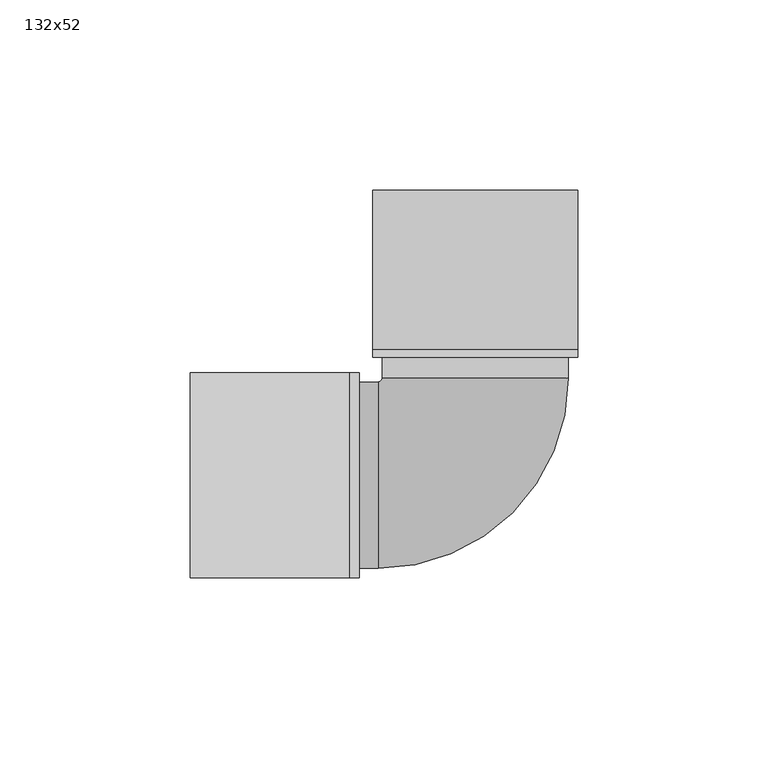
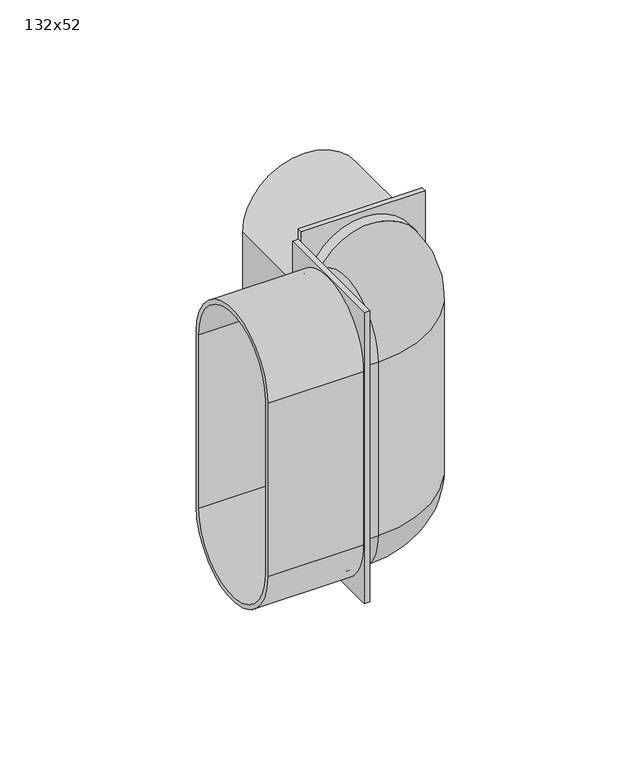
"""IFC4 building model written with IfcOpenShell, lengths in millimetres: duct fitting geometry, NLRS_57_DUF_UN_bend vertical v2_M&G : 132x52."""

from ifc_helpers import new_model, si_unit, point, frame, origin, place, context, project, spatial, polyline, circle_curve, ellipse_curve, trimmed, outline, extrude, source, transform, mapped, element, save
from ifc_brep_helpers import plane_surface, cylinder_surface, revolved_surface, advanced_brep


def duct_fitting_132x52_0ce7a236(model_context):
    return source(origin(), model_context, "Body", "SolidModel", [
        extrude(outline(polyline([(-33.0, -27.0), (-33.0, 27.0), (-30.5, 27.0), (-30.5, -27.0), (-33.0, -27.0)])), frame((0.0, 0.0, -67.0), z_axis=(0.0, 0.0, 1.0), x_axis=(1.0, 0.0, 0.0)), (0.0, 0.0, 1.0), 134.0),
        extrude(outline(polyline([(-27.0, 33.0), (27.0, 33.0), (27.0, 31.0), (-27.0, 31.0), (-27.0, 33.0)])), frame((0.0, 0.0, -67.0), z_axis=(0.0, 0.0, 1.0), x_axis=(1.0, 0.0, 0.0)), (0.0, 0.0, 1.0), 134.0),
        advanced_brep(
        [(-33.0, 27.0, -40.0), (-33.0, 27.0, 40.0), (-33.0, -27.0, 40.0), (-33.0, -27.0, -40.0), (-33.0, -24.5, -40.0), (-33.0, -24.5, 40.0), (-33.0, 24.5, 40.0), (-33.0, 24.5, -40.0), (-75.0, 27.0, -40.0), (-75.0, -27.0, -40.0), (-75.0, -27.0, 40.0), (-75.0, 27.0, 40.0), (-75.0, 25.0, 40.0), (-75.0, -25.0, 40.0), (-75.0, -25.0, -40.0), (-75.0, 25.0, -40.0), (-27.0, 33.0, 40.0), (-27.0, 33.0, -40.0), (27.0, 33.0, -40.0), (27.0, 33.0, 40.0), (-24.5, 33.0, 40.0), (24.5, 33.0, 40.0), (24.5, 33.0, -40.0), (-24.5, 33.0, -40.0), (-27.0, 75.0, 40.0), (27.0, 75.0, 40.0), (27.0, 75.0, -40.0), (-27.0, 75.0, -40.0), (25.0, 75.0, -40.0), (25.0, 75.0, 40.0), (-25.0, 75.0, 40.0), (-25.0, 75.0, -40.0), (-35.0, 25.0, -40.0), (-35.0, -25.0, -40.0), (-35.0, -25.0, 40.0), (-35.0, 25.0, 40.0), (25.0, 35.0, -40.0), (-25.0, 35.0, -40.0), (-25.0, 35.0, 40.0), (25.0, 35.0, 40.0), (-25.5, -24.5, -40.0), (-25.5, -24.5, 40.0), (-25.5, 24.5, 40.0), (-25.5, 24.5, -40.0), (24.5, 25.5, 40.0), (-24.5, 25.5, 40.0), (-24.5, 25.5, -40.0), (24.5, 25.5, -40.0)],
        [
            (0, 1),
            (1, 2, circle_curve(frame((-33.0, 0.0, 40.0), z_axis=(1.0, 0.0, 0.0), x_axis=(0.0, -1.0, 0.0)), 27.0)),
            (2, 3),
            (3, 0, circle_curve(frame((-33.0, 0.0, -40.0), z_axis=(1.0, 0.0, 0.0), x_axis=(0.0, -1.0, 0.0)), 27.0)),
            (4, 5),
            (5, 6, circle_curve(frame((-33.0, 0.0, 40.0), z_axis=(-1.0, 0.0, 0.0), x_axis=(0.0, 1.0, 0.0)), 24.5)),
            (6, 7),
            (7, 4, circle_curve(frame((-33.0, 0.0, -40.0), z_axis=(-1.0, 0.0, 0.0), x_axis=(0.0, 1.0, 0.0)), 24.5)),
            (8, 9, circle_curve(frame((-75.0, 0.0, -40.0), z_axis=(-1.0, 0.0, 0.0), x_axis=(0.0, -1.0, 0.0)), 27.0)),
            (9, 10),
            (10, 11, circle_curve(frame((-75.0, 0.0, 40.0), z_axis=(-1.0, 0.0, 0.0), x_axis=(0.0, -1.0, 0.0)), 27.0)),
            (11, 8),
            (12, 13, circle_curve(frame((-75.0, 0.0, 40.0), z_axis=(1.0, 0.0, 0.0), x_axis=(0.0, 1.0, 0.0)), 25.0)),
            (13, 14),
            (14, 15, circle_curve(frame((-75.0, 0.0, -40.0), z_axis=(1.0, 0.0, 0.0), x_axis=(0.0, 1.0, 0.0)), 25.0)),
            (15, 12),
            (16, 17),
            (17, 18, circle_curve(frame((0.0, 33.0, -40.0), z_axis=(0.0, -1.0, 0.0), x_axis=(-1.0, 0.0, 0.0)), 27.0)),
            (18, 19),
            (19, 16, circle_curve(frame((0.0, 33.0, 40.0), z_axis=(0.0, -1.0, 0.0), x_axis=(-1.0, 0.0, 0.0)), 27.0)),
            (20, 21, circle_curve(frame((0.0, 33.0, 40.0), z_axis=(0.0, 1.0, 0.0), x_axis=(-1.0, 0.0, 0.0)), 24.5)),
            (21, 22),
            (22, 23, circle_curve(frame((0.0, 33.0, -40.0), z_axis=(0.0, 1.0, 0.0), x_axis=(-1.0, 0.0, 0.0)), 24.5)),
            (23, 20),
            (24, 25, circle_curve(frame((0.0, 75.0, 40.0), z_axis=(0.0, 1.0, 0.0), x_axis=(-1.0, 0.0, 0.0)), 27.0)),
            (25, 26),
            (26, 27, circle_curve(frame((0.0, 75.0, -40.0), z_axis=(0.0, 1.0, 0.0), x_axis=(-1.0, 0.0, 0.0)), 27.0)),
            (27, 24),
            (28, 29),
            (29, 30, circle_curve(frame((0.0, 75.0, 40.0), z_axis=(0.0, -1.0, 0.0), x_axis=(-1.0, 0.0, 0.0)), 25.0)),
            (30, 31),
            (31, 28, circle_curve(frame((0.0, 75.0, -40.0), z_axis=(0.0, -1.0, 0.0), x_axis=(-1.0, 0.0, 0.0)), 25.0)),
            (32, 33, circle_curve(frame((-35.0, 0.0, -40.0), z_axis=(-1.0, 0.0, 0.0), x_axis=(0.0, 1.0, 0.0)), 25.0)),
            (33, 34),
            (34, 35, circle_curve(frame((-35.0, 0.0, 40.0), z_axis=(-1.0, 0.0, 0.0), x_axis=(0.0, 1.0, 0.0)), 25.0)),
            (35, 32),
            (36, 37, circle_curve(frame((0.0, 35.0, -40.0), z_axis=(0.0, 1.0, 0.0), x_axis=(-1.0, 0.0, 0.0)), 25.0)),
            (37, 38),
            (38, 39, circle_curve(frame((0.0, 35.0, 40.0), z_axis=(0.0, 1.0, 0.0), x_axis=(-1.0, 0.0, 0.0)), 25.0)),
            (39, 36),
            (34, 13),
            (12, 35),
            (15, 32),
            (14, 33),
            (3, 9),
            (8, 0),
            (11, 1),
            (10, 2),
            (39, 29),
            (28, 36),
            (38, 30),
            (37, 31),
            (4, 40),
            (40, 41),
            (41, 5),
            (41, 42, circle_curve(frame((-25.5, 0.0, 40.0), z_axis=(-1.0, 0.0, 0.0), x_axis=(0.0, 1.0, 0.0)), 24.5)),
            (42, 6),
            (42, 43),
            (43, 7),
            (43, 40, circle_curve(frame((-25.5, 0.0, -40.0), z_axis=(-1.0, 0.0, 0.0), x_axis=(0.0, 1.0, 0.0)), 24.5)),
            (41, 44, circle_curve(frame((-25.5, 25.5, 40.0), z_axis=(0.0, 0.0, 1.0), x_axis=(0.0, -1.0, 0.0)), 50.0)),
            (44, 45, circle_curve(frame((0.0, 25.5, 40.0), z_axis=(0.0, -1.0, 0.0), x_axis=(-1.0, 0.0, 0.0)), 24.5)),
            (45, 42, circle_curve(frame((-25.5, 25.5, 40.0), z_axis=(0.0, 0.0, -1.0), x_axis=(0.0, -1.0, 0.0)), 1.0)),
            (43, 46, circle_curve(frame((-25.5, 25.5, -40.0), z_axis=(0.0, 0.0, 1.0), x_axis=(0.0, -1.0, 0.0)), 1.0)),
            (46, 47, circle_curve(frame((0.0, 25.5, -40.0), z_axis=(1.0675904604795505e-12, -1.0, 0.0), x_axis=(-1.0, -1.0675904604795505e-12, 0.0)), 24.5)),
            (47, 40, circle_curve(frame((-25.5, 25.5, -40.0), z_axis=(0.0, 0.0, -1.0), x_axis=(0.0, -1.0, 0.0)), 50.0)),
            (44, 21),
            (20, 45),
            (46, 23),
            (22, 47),
            (16, 24),
            (27, 17),
            (26, 18),
            (25, 19),
            (47, 44),
            (45, 46),
        ],
        [
            plane_surface(frame((-33.0, 0.0, 0.0), z_axis=(1.0, 0.0, 0.0), x_axis=(0.0, 0.0, 1.0))),
            plane_surface(frame((-75.0, 0.0, 0.0), z_axis=(-1.0, 0.0, 0.0), x_axis=(0.0, 0.0, 1.0))),
            plane_surface(frame((0.0, 33.0, 0.0), z_axis=(0.0, -1.0, 0.0), x_axis=(0.0, 0.0, 1.0))),
            plane_surface(frame((0.0, 75.0, 0.0), z_axis=(0.0, 1.0, 0.0), x_axis=(0.0, 0.0, 1.0))),
            plane_surface(frame((-35.0, 0.0, 0.0), z_axis=(-1.0, 0.0, 0.0), x_axis=(0.0, 0.0, 1.0))),
            plane_surface(frame((0.0, 35.0, 0.0), z_axis=(0.0, 1.0, 0.0), x_axis=(0.0, 0.0, 1.0))),
            revolved_surface(polyline([(-75.0, 25.0, 40.0), (-35.0, 25.0, 40.0)]), (-75.0, 0.0, 40.0), (-1.0, 0.0, 0.0)),
            plane_surface(frame((-75.0, 25.0, 40.0), z_axis=(0.0, -1.0, 0.0), x_axis=(1.0, 0.0, 0.0))),
            revolved_surface(polyline([(-75.0, 25.0, -40.0), (-35.0, 25.0, -40.0)]), (-75.0, 0.0, -40.0), (-1.0, 0.0, 0.0)),
            cylinder_surface(frame((-33.0, 0.0, -40.0), z_axis=(1.0, 0.0, 0.0), x_axis=(0.0, -1.0, 0.0)), 27.0),
            plane_surface(frame((-33.0, 27.0, -40.0), z_axis=(0.0, 1.0, 0.0), x_axis=(-1.0, 0.0, 0.0))),
            cylinder_surface(frame((-33.0, 0.0, 40.0), z_axis=(1.0, 0.0, 0.0), x_axis=(0.0, -1.0, 0.0)), 27.0),
            plane_surface(frame((25.0, 35.0, -40.0), z_axis=(-1.0, 0.0, 0.0), x_axis=(0.0, 1.0, 0.0))),
            revolved_surface(polyline([(-25.0, 35.0, 40.0), (-25.0, 75.0, 40.0)]), (0.0, 35.0, 40.0), (0.0, -1.0, 0.0)),
            plane_surface(frame((-25.0, 35.0, 40.0), z_axis=(1.0, 0.0, 0.0), x_axis=(0.0, 1.0, 0.0))),
            revolved_surface(polyline([(-25.0, 35.0, -40.0), (-25.0, 75.0, -40.0)]), (0.0, 35.0, -40.0), (0.0, -1.0, 0.0)),
            plane_surface(frame((-33.0, -24.5, -40.0), z_axis=(0.0, -1.0, 0.0), x_axis=(1.0, 0.0, 0.0))),
            cylinder_surface(frame((-33.0, 0.0, 40.0), z_axis=(-1.0, 0.0, 0.0), x_axis=(0.0, 1.0, 0.0)), 24.5),
            plane_surface(frame((-33.0, 24.5, 40.0), z_axis=(0.0, 1.0, 0.0), x_axis=(1.0, 0.0, 0.0))),
            cylinder_surface(frame((-33.0, 0.0, -40.0), z_axis=(-1.0, 0.0, 0.0), x_axis=(0.0, 1.0, 0.0)), 24.5),
            revolved_surface(trimmed(ellipse_curve(frame((-25.5, 0.0, 40.0), z_axis=(-1.0, 0.0, 0.0), x_axis=(0.0, 1.0, 0.0)), 24.5, 24.5), [point((-25.5, -24.5, 40.0))], [point((-25.5, 24.5, 40.0))], True, "CARTESIAN"), (-25.5, 25.5, 0.0), (0.0, 0.0, 1.0)),
            revolved_surface(trimmed(ellipse_curve(frame((-25.5, 0.0, -40.0), z_axis=(-1.0, 0.0, 0.0), x_axis=(0.0, 1.0, 0.0)), 24.5, 24.5), [point((-25.5, 24.5, -40.0))], [point((-25.5, -24.5, -40.0))], True, "CARTESIAN"), (-25.5, 25.5, 0.0), (0.0, 0.0, 1.0)),
            cylinder_surface(frame((0.0, 25.5, 40.0), z_axis=(0.0, -1.0, 0.0), x_axis=(-1.0, 0.0, 0.0)), 24.5),
            cylinder_surface(frame((0.0, 25.5, -40.0), z_axis=(0.0, -1.0, 0.0), x_axis=(-1.0, 0.0, 0.0)), 24.5),
            plane_surface(frame((-33.0, -27.0, 40.0), z_axis=(0.0, -1.0, 0.0), x_axis=(-1.0, 0.0, 0.0))),
            plane_surface(frame((-75.0, -25.0, -40.0), z_axis=(0.0, 1.0, 0.0), x_axis=(1.0, 0.0, 0.0))),
            plane_surface(frame((-27.0, 33.0, 40.0), z_axis=(-1.0, 0.0, 0.0), x_axis=(0.0, 1.0, 0.0))),
            cylinder_surface(frame((0.0, 33.0, -40.0), z_axis=(0.0, -1.0, 0.0), x_axis=(-1.0, 0.0, 0.0)), 27.0),
            plane_surface(frame((27.0, 33.0, -40.0), z_axis=(1.0, 0.0, 0.0), x_axis=(0.0, 1.0, 0.0))),
            cylinder_surface(frame((0.0, 33.0, 40.0), z_axis=(0.0, -1.0, 0.0), x_axis=(-1.0, 0.0, 0.0)), 27.0),
            cylinder_surface(frame((-25.5, 25.5, 0.0), z_axis=(0.0, 0.0, 1.0), x_axis=(0.0, -1.0, 0.0)), 50.0),
            revolved_surface(polyline([(-25.5, 24.5, 40.0), (-25.5, 24.5, -40.0)]), (-25.5, 25.5, 0.0), (0.0, 0.0, 1.0)),
            plane_surface(frame((24.5, 25.5, -40.0), z_axis=(1.0, 0.0, 0.0), x_axis=(0.0, 1.0, 0.0))),
            plane_surface(frame((-24.5, 25.5, 40.0), z_axis=(-1.0, 0.0, 0.0), x_axis=(0.0, 1.0, 0.0))),
        ],
        [
            (0, [[1, 2, 3, 4], [5, 6, 7, 8]]),
            (1, [[9, 10, 11, 12], [13, 14, 15, 16]]),
            (2, [[17, 18, 19, 20], [21, 22, 23, 24]]),
            (3, [[25, 26, 27, 28], [29, 30, 31, 32]]),
            (4, [[33, 34, 35, 36]]),
            (5, [[37, 38, 39, 40]]),
            (6, [[-35, 41, -13, 42]]),
            (7, [[-36, -42, -16, 43]]),
            (8, [[-33, -43, -15, 44]]),
            (9, [[-4, 45, -9, 46]]),
            (10, [[-1, -46, -12, 47]]),
            (11, [[-2, -47, -11, 48]]),
            (12, [[-40, 49, -29, 50]]),
            (13, [[-39, 51, -30, -49]]),
            (14, [[-38, 52, -31, -51]]),
            (15, [[-37, -50, -32, -52]]),
            (16, [[53, 54, 55, -5]]),
            (17, [[-55, 56, 57, -6]]),
            (18, [[-57, 58, 59, -7]]),
            (19, [[-53, -8, -59, 60]]),
            (20, [[-56, 61, 62, 63]]),
            (21, [[-60, 64, 65, 66]]),
            (22, [[-62, 67, -21, 68]]),
            (23, [[-65, 69, -23, 70]]),
            (24, [[-3, -48, -10, -45]]),
            (25, [[-34, -44, -14, -41]]),
            (26, [[-17, 71, -28, 72]]),
            (27, [[-18, -72, -27, 73]]),
            (28, [[-19, -73, -26, 74]]),
            (29, [[-20, -74, -25, -71]]),
            (30, [[-54, -66, 75, -61]]),
            (31, [[-58, -63, 76, -64]]),
            (32, [[-75, -70, -22, -67]]),
            (33, [[-76, -68, -24, -69]]),
        ],
    ),
    ])


if __name__ == "__main__":
    model = new_model("IFC4")
    model_context = context("Model", 3, world=origin())
    ifc_project = project(units=[si_unit("LENGTHUNIT", "METRE", prefix="MILLI")], contexts=[model_context])
    site = spatial("IfcSite", under=ifc_project)
    building = spatial("IfcBuilding", under=site)
    placement = place(None, origin())
    duct_fitting_132x52_shape = duct_fitting_132x52_0ce7a236(model_context)
    element("IfcDuctFitting", 1, ObjectType="NLRS_57_DUF_UN_bend vertical v2_M&G : 132x52", at=placement, inside=building, context=model_context, shape_type="MappedRepresentation", body=[
        mapped(duct_fitting_132x52_shape, transform((0.0, 0.0, 0.0), x_axis=(1.0, 0.0, 0.0), y_axis=(0.0, 1.0, 0.0), z_axis=(0.0, 0.0, 1.0))),
    ])
    save(model, "model.ifc")
